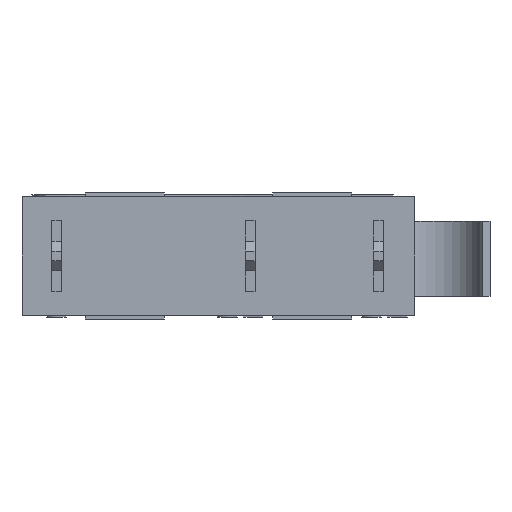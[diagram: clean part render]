
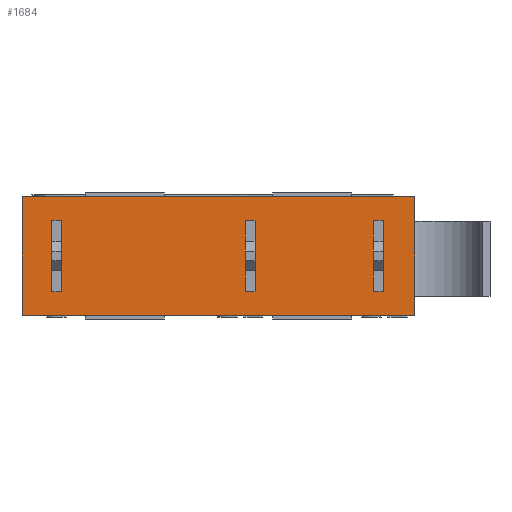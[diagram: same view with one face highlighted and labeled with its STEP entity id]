
A CAD part, front view. The second image highlights one B-rep face of the part: STEP entity #1684.
In plain terms, the highlighted planar face has unit normal (0, -1, 0).
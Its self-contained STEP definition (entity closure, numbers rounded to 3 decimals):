
#485=CARTESIAN_POINT('',(8.35,-5.0,2.4));
#486=VERTEX_POINT('',#485);
#487=CARTESIAN_POINT('',(8.35,-5.0,-1.2));
#488=VERTEX_POINT('',#487);
#489=CARTESIAN_POINT('',(8.35,-5.0,2.4));
#490=DIRECTION('',(0.0,0.0,-1.0));
#491=VECTOR('',#490,3.6);
#492=LINE('',#489,#491);
#493=EDGE_CURVE('',#486,#488,#492,.T.);
#573=CARTESIAN_POINT('',(7.85,-5.0,2.4));
#574=VERTEX_POINT('',#573);
#575=CARTESIAN_POINT('',(7.85,-5.,2.4));
#576=DIRECTION('',(1.0,0.0,0.0));
#577=VECTOR('',#576,0.5);
#578=LINE('',#575,#577);
#579=EDGE_CURVE('',#574,#486,#578,.T.);
#604=CARTESIAN_POINT('',(7.85,-5.0,-1.2));
#605=VERTEX_POINT('',#604);
#606=CARTESIAN_POINT('',(7.85,-5.0,-1.2));
#607=DIRECTION('',(1.0,0.0,0.0));
#608=VECTOR('',#607,0.5);
#609=LINE('',#606,#608);
#610=EDGE_CURVE('',#605,#488,#609,.T.);
#796=CARTESIAN_POINT('',(7.85,-5.0,2.4));
#797=DIRECTION('',(0.0,0.0,-1.0));
#798=VECTOR('',#797,3.6);
#799=LINE('',#796,#798);
#800=EDGE_CURVE('',#574,#605,#799,.T.);
#819=CARTESIAN_POINT('',(1.85,-5.0,2.4));
#820=VERTEX_POINT('',#819);
#821=CARTESIAN_POINT('',(1.85,-5.0,-1.2));
#822=VERTEX_POINT('',#821);
#823=CARTESIAN_POINT('',(1.85,-5.0,2.4));
#824=DIRECTION('',(0.0,0.0,-1.0));
#825=VECTOR('',#824,3.6);
#826=LINE('',#823,#825);
#827=EDGE_CURVE('',#820,#822,#826,.T.);
#907=CARTESIAN_POINT('',(1.35,-5.,2.4));
#908=VERTEX_POINT('',#907);
#909=CARTESIAN_POINT('',(1.35,-5.0,2.4));
#910=DIRECTION('',(1.0,0.0,0.0));
#911=VECTOR('',#910,0.5);
#912=LINE('',#909,#911);
#913=EDGE_CURVE('',#908,#820,#912,.T.);
#938=CARTESIAN_POINT('',(1.35,-5.0,-1.2));
#939=VERTEX_POINT('',#938);
#940=CARTESIAN_POINT('',(1.35,-5.0,-1.2));
#941=DIRECTION('',(1.0,0.0,0.0));
#942=VECTOR('',#941,0.5);
#943=LINE('',#940,#942);
#944=EDGE_CURVE('',#939,#822,#943,.T.);
#1130=CARTESIAN_POINT('',(1.35,-5.,2.4));
#1131=DIRECTION('',(0.0,0.0,-1.0));
#1132=VECTOR('',#1131,3.6);
#1133=LINE('',#1130,#1132);
#1134=EDGE_CURVE('',#908,#939,#1133,.T.);
#1153=CARTESIAN_POINT('',(-7.95,-5.,2.4));
#1154=VERTEX_POINT('',#1153);
#1155=CARTESIAN_POINT('',(-7.95,-5.0,-1.2));
#1156=VERTEX_POINT('',#1155);
#1157=CARTESIAN_POINT('',(-7.95,-5.,2.4));
#1158=DIRECTION('',(0.0,0.0,-1.0));
#1159=VECTOR('',#1158,3.6);
#1160=LINE('',#1157,#1159);
#1161=EDGE_CURVE('',#1154,#1156,#1160,.T.);
#1241=CARTESIAN_POINT('',(-8.45,-5.0,2.4));
#1242=VERTEX_POINT('',#1241);
#1243=CARTESIAN_POINT('',(-8.45,-5.,2.4));
#1244=DIRECTION('',(1.0,0.0,0.0));
#1245=VECTOR('',#1244,0.5);
#1246=LINE('',#1243,#1245);
#1247=EDGE_CURVE('',#1242,#1154,#1246,.T.);
#1272=CARTESIAN_POINT('',(-8.45,-5.0,-1.2));
#1273=VERTEX_POINT('',#1272);
#1274=CARTESIAN_POINT('',(-8.45,-5.0,-1.2));
#1275=DIRECTION('',(1.0,0.0,0.0));
#1276=VECTOR('',#1275,0.5);
#1277=LINE('',#1274,#1276);
#1278=EDGE_CURVE('',#1273,#1156,#1277,.T.);
#1464=CARTESIAN_POINT('',(-8.45,-5.0,-1.2));
#1465=DIRECTION('',(0.0,0.0,1.0));
#1466=VECTOR('',#1465,3.6);
#1467=LINE('',#1464,#1466);
#1468=EDGE_CURVE('',#1273,#1242,#1467,.T.);
#1627=CARTESIAN_POINT('',(9.95,-5.0,-2.4));
#1628=DIRECTION('',(0.0,-1.0,0.0));
#1629=DIRECTION('',(0.0,0.0,-1.0));
#1630=AXIS2_PLACEMENT_3D('',#1627,#1628,#1629);
#1631=PLANE('',#1630);
#1632=CARTESIAN_POINT('',(9.95,-5.,3.6));
#1633=VERTEX_POINT('',#1632);
#1634=CARTESIAN_POINT('',(-9.95,-5.,3.6));
#1635=VERTEX_POINT('',#1634);
#1636=CARTESIAN_POINT('',(9.95,-5.,3.6));
#1637=DIRECTION('',(-1.0,0.0,0.0));
#1638=VECTOR('',#1637,19.9);
#1639=LINE('',#1636,#1638);
#1640=EDGE_CURVE('',#1633,#1635,#1639,.T.);
#1641=ORIENTED_EDGE('',*,*,#1640,.T.);
#1642=CARTESIAN_POINT('',(-9.95,-5.0,-2.4));
#1643=VERTEX_POINT('',#1642);
#1644=CARTESIAN_POINT('',(-9.95,-5.0,-2.4));
#1645=DIRECTION('',(0.0,0.0,1.0));
#1646=VECTOR('',#1645,6.0);
#1647=LINE('',#1644,#1646);
#1648=EDGE_CURVE('',#1643,#1635,#1647,.T.);
#1649=ORIENTED_EDGE('',*,*,#1648,.F.);
#1650=CARTESIAN_POINT('',(9.95,-5.0,-2.4));
#1651=VERTEX_POINT('',#1650);
#1652=CARTESIAN_POINT('',(-9.95,-5.0,-2.4));
#1653=DIRECTION('',(1.0,0.0,0.0));
#1654=VECTOR('',#1653,19.9);
#1655=LINE('',#1652,#1654);
#1656=EDGE_CURVE('',#1643,#1651,#1655,.T.);
#1657=ORIENTED_EDGE('',*,*,#1656,.T.);
#1658=CARTESIAN_POINT('',(9.95,-5.,-2.4));
#1659=DIRECTION('',(0.0,0.0,1.0));
#1660=VECTOR('',#1659,6.0);
#1661=LINE('',#1658,#1660);
#1662=EDGE_CURVE('',#1651,#1633,#1661,.T.);
#1663=ORIENTED_EDGE('',*,*,#1662,.T.);
#1664=EDGE_LOOP('',(#1641,#1649,#1657,#1663));
#1665=FACE_OUTER_BOUND('',#1664,.T.);
#1666=ORIENTED_EDGE('',*,*,#1161,.T.);
#1667=ORIENTED_EDGE('',*,*,#1278,.F.);
#1668=ORIENTED_EDGE('',*,*,#1468,.T.);
#1669=ORIENTED_EDGE('',*,*,#1247,.T.);
#1670=EDGE_LOOP('',(#1666,#1667,#1668,#1669));
#1671=FACE_BOUND('',#1670,.T.);
#1672=ORIENTED_EDGE('',*,*,#827,.T.);
#1673=ORIENTED_EDGE('',*,*,#944,.F.);
#1674=ORIENTED_EDGE('',*,*,#1134,.F.);
#1675=ORIENTED_EDGE('',*,*,#913,.T.);
#1676=EDGE_LOOP('',(#1672,#1673,#1674,#1675));
#1677=FACE_BOUND('',#1676,.T.);
#1678=ORIENTED_EDGE('',*,*,#800,.F.);
#1679=ORIENTED_EDGE('',*,*,#579,.T.);
#1680=ORIENTED_EDGE('',*,*,#493,.T.);
#1681=ORIENTED_EDGE('',*,*,#610,.F.);
#1682=EDGE_LOOP('',(#1678,#1679,#1680,#1681));
#1683=FACE_BOUND('',#1682,.T.);
#1684=ADVANCED_FACE('',(#1665,#1671,#1677,#1683),#1631,.T.);
